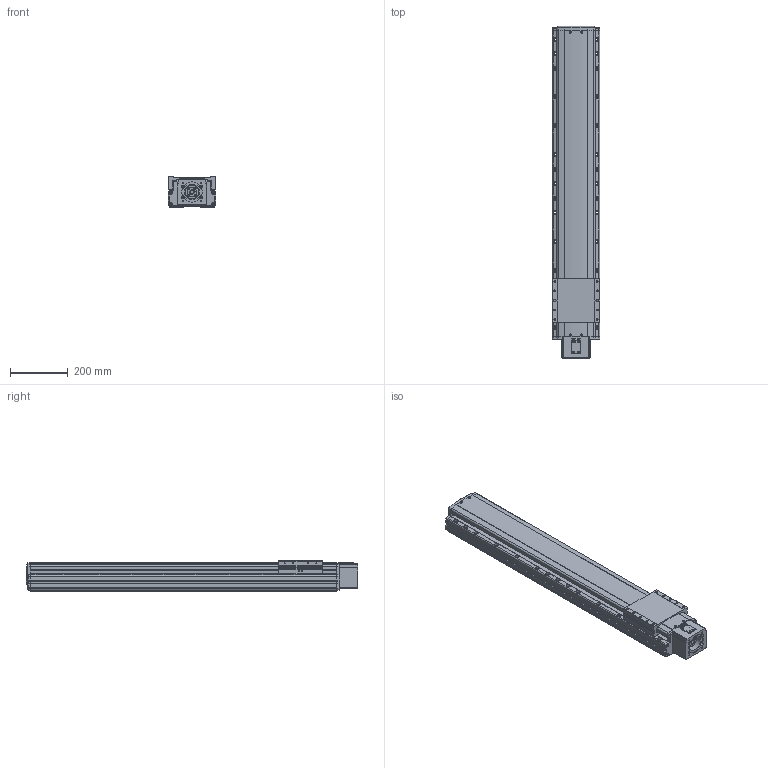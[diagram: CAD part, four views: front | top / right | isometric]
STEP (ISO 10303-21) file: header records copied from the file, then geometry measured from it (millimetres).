
FILE_DESCRIPTION(('STEP AP214'),'1');
FILE_NAME('Z:/Web/3D/PSA165/STP/PSA165-800 (3D)/PSA165ㅁㅁ-800S.stp','2014-06-23T11:48:21',(' '),(' '),'Spatial InterOp 3D',' ',' ');
FILE_SCHEMA(('automotive_design'));
Length unit declared in the file: millimetre
Products named in the file (67): 스크루 : Round - M4.0 x 12.0; RRCV-PA160; BASE; 스크루 : Round - M4.0 x 10.0; RN15; Screw 20; SLIDE; FRCV; 스크루 : Socket - M6.0 x 25.0; MTHZ-SAN150-80A; SSFX-SAN65; CPLCV-SAN65; 스크루 : Round - M3.0 x 6.0; SDWA47C(2); SDWA47C(3-1); SDWA47C(3); SDWA47C(1); SDWA47C(4); SDWA47C(5)
Bounding box: 165 x 1149.8 x 104 mm (x, y, z)
Volume: 15358287.8 mm3; surface area: 1049027.2 mm2
Topology: 67 solids, 67 shells, 3056 faces, 8155 edges, 5237 vertices
Faces by surface type: plane 1396, cylinder 1182, cone 369, sphere 50, bspline 35, torus 24
Entity records: 125619 total; most frequent: CARTESIAN_POINT 22165, DIRECTION 16947, ORIENTED_EDGE 15982, EDGE_CURVE 7991, AXIS2_PLACEMENT_3D 6149, VERTEX_POINT 5237, LINE 4649, VECTOR 4649
